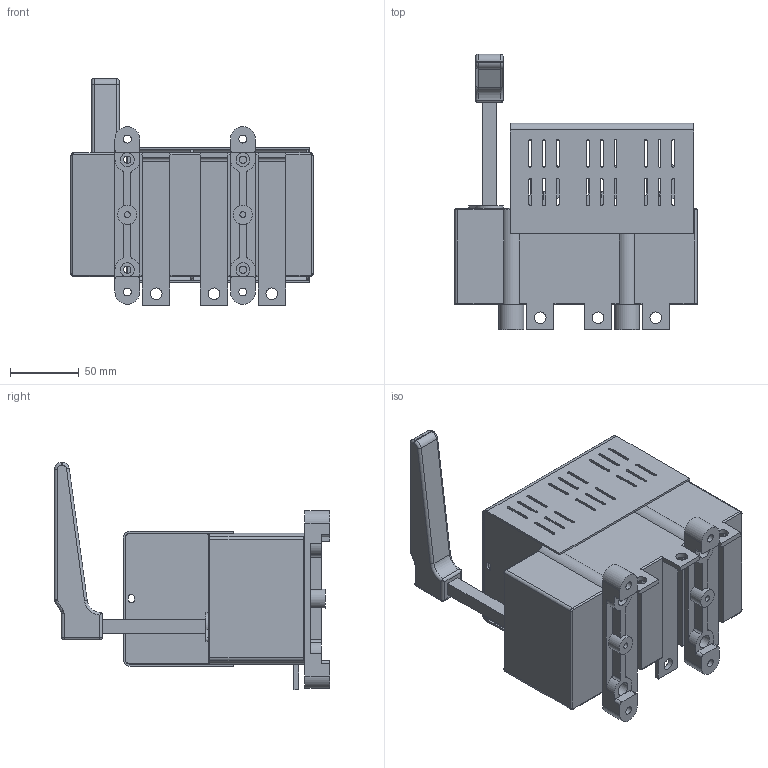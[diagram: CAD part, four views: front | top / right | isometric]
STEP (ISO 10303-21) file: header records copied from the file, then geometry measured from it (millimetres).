
FILE_DESCRIPTION(/* description */ (''),/* implementation_level */ '2;1');
FILE_NAME(/* name */ 'RAB 00 P3 A-R.stp',/* time_stamp */ '2021-08-19T11:10:56+02:00',/* author */ (''),/* organization */ (''),/* preprocessor_version */ 'ST-DEVELOPER v18.1',/* originating_system */ 'SIEMENS PLM Software NX 1965',/* authorisation */ '');
FILE_SCHEMA (('AUTOMOTIVE_DESIGN { 1 0 10303 214 3 1 1 1 }'));
Length unit declared in the file: millimetre
Products named in the file (1): RAB 00 P3 A-R_stp
Bounding box: 176 x 200 x 165 mm (x, y, z)
Volume: 1254478.4 mm3; surface area: 237167.3 mm2
Topology: 1 solids, 1 shells, 973 faces, 2742 edges, 1768 vertices
Faces by surface type: plane 592, cylinder 355, torus 15, sphere 6, bspline 5
Full cylindrical faces by diameter (mm): 2.7 x4, 4.3 x2, 5 x6, 5.2 x6, 5.3 x4, 5.8 x4, 8.5 x6, 10 x8, 14 x2
Entity records: 31283 total; most frequent: CARTESIAN_POINT 5639, ORIENTED_EDGE 5336, DIRECTION 5314, EDGE_CURVE 2668, LINE 1884, VECTOR 1884, VERTEX_POINT 1742, AXIS2_PLACEMENT_3D 1715
